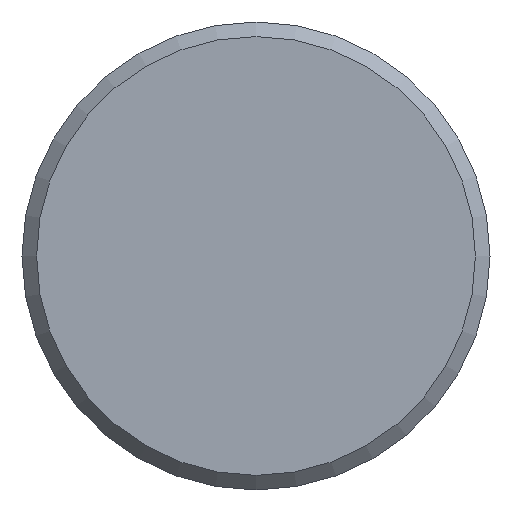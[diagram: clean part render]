
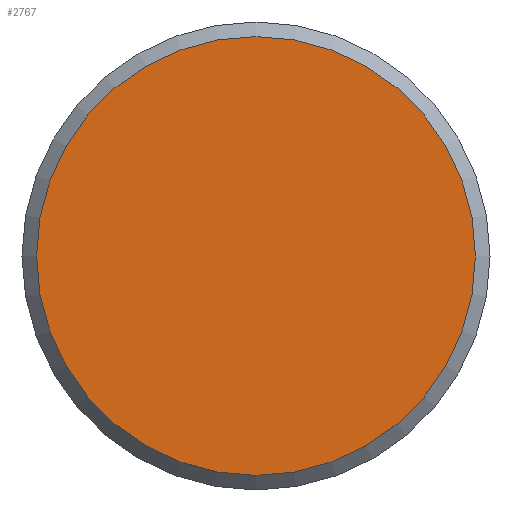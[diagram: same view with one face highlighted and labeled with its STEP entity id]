
A CAD part, left-side view. The second image highlights one B-rep face of the part: STEP entity #2767.
In plain terms, the highlighted planar face has unit normal (-1, 0, 0).
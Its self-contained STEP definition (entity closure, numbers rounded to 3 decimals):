
#1014=PLANE('',#2577);
#1070=ORIENTED_EDGE('',*,*,#1438,.F.);
#1252=CIRCLE('',#2576,7.5);
#1345=VERTEX_POINT('',#2294);
#1438=EDGE_CURVE('',#1345,#1345,#1252,.T.);
#1535=EDGE_LOOP('',(#1070));
#1721=FACE_BOUND('',#1535,.T.);
#1914=DIRECTION('',(1.,0.,0.));
#1915=DIRECTION('',(0.,-7.5,0.));
#1916=DIRECTION('',(-1.,0.,0.));
#1917=DIRECTION('',(0.,1.,0.));
#2294=CARTESIAN_POINT('',(24.625,163.014,0.));
#2295=CARTESIAN_POINT('',(24.625,170.514,0.));
#2296=CARTESIAN_POINT('',(24.625,170.514,0.));
#2576=AXIS2_PLACEMENT_3D('',#2295,#1914,#1915);
#2577=AXIS2_PLACEMENT_3D('',#2296,#1916,#1917);
#2767=ADVANCED_FACE('',(#1721),#1014,.T.);
